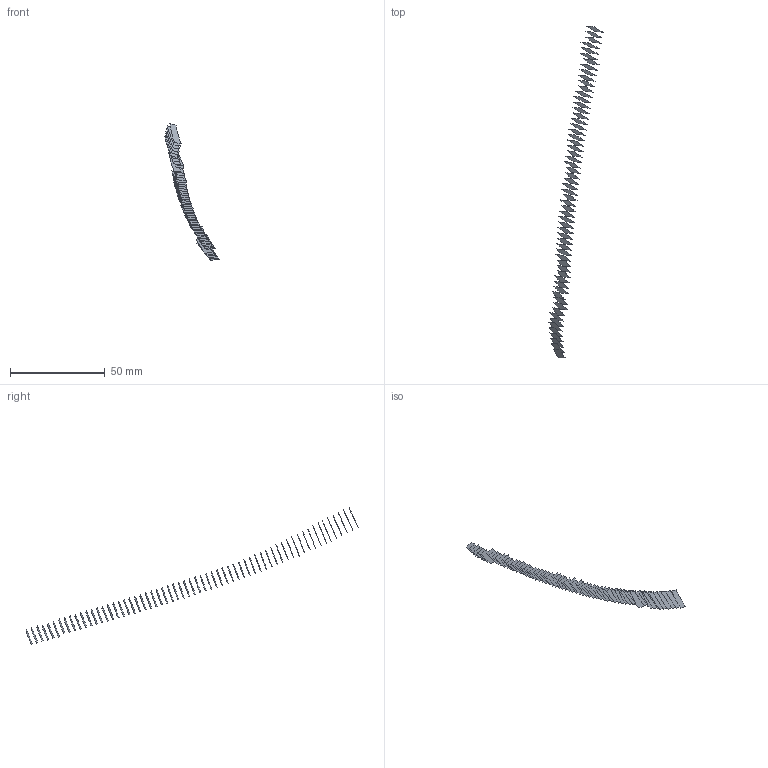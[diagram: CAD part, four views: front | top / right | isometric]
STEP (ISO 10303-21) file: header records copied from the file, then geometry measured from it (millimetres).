
FILE_DESCRIPTION(('FreeCAD Model'),'2;1');
FILE_NAME('Open CASCADE Shape Model','2022-05-22T07:50:30',('FreeCAD'),( 'FreeCAD'),'Open CASCADE STEP processor 7.5','FreeCAD','Unknown');
FILE_SCHEMA(('AUTOMOTIVE_DESIGN { 1 0 10303 214 1 1 1 1 }'));
Length unit declared in the file: millimetre
Products named in the file (62): Open CASCADE STEP translator 7.5 1; Open CASCADE STEP translator 7.5 1.1; Open CASCADE STEP translator 7.5 1.2; Open CASCADE STEP translator 7.5 1.3; Open CASCADE STEP translator 7.5 1.4; Open CASCADE STEP translator 7.5 1.5; Open CASCADE STEP translator 7.5 1.6; Open CASCADE STEP translator 7.5 1.7; Open CASCADE STEP translator 7.5 1.8; Open CASCADE STEP translator 7.5 1.9; Open CASCADE STEP translator 7.5 1.10; Open CASCADE STEP translator 7.5 1.11; Open CASCADE STEP translator 7.5 1.12; Open CASCADE STEP translator 7.5 1.13; Open CASCADE STEP translator 7.5 1.14; Open CASCADE STEP translator 7.5 1.15; Open CASCADE STEP translator 7.5 1.16; Open CASCADE STEP translator 7.5 1.17; Open CASCADE STEP translator 7.5 1.18; Open CASCADE STEP translator 7.5 1.19; Open CASCADE STEP translator 7.5 1.20; Open CASCADE STEP translator 7.5 1.21; Open CASCADE STEP translator 7.5 1.22; Open CASCADE STEP translator 7.5 1.23; Open CASCADE STEP translator 7.5 1.24; Open CASCADE STEP translator 7.5 1.25; Open CASCADE STEP translator 7.5 1.26; Open CASCADE STEP translator 7.5 1.27; Open CASCADE STEP translator 7.5 1.28; Open CASCADE STEP translator 7.5 1.29; Open CASCADE STEP translator 7.5 1.30; Open CASCADE STEP translator 7.5 1.31; Open CASCADE STEP translator 7.5 1.32; Open CASCADE STEP translator 7.5 1.33; Open CASCADE STEP translator 7.5 1.34; Open CASCADE STEP translator 7.5 1.35; Open CASCADE STEP translator 7.5 1.36; Open CASCADE STEP translator 7.5 1.37; Open CASCADE STEP translator 7.5 1.38; Open CASCADE STEP translator 7.5 1.39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
Assembly tree (61 placements, depth 2):
  Open CASCADE STEP translator 7.5 1
    Open CASCADE STEP translator 7.5 1.1
    Open CASCADE STEP translator 7.5 1.2
    Open CASCADE STEP translator 7.5 1.3
    Open CASCADE STEP translator 7.5 1.4
    Open CASCADE STEP translator 7.5 1.5
    Open CASCADE STEP translator 7.5 1.6
    Open CASCADE STEP translator 7.5 1.7
    Open CASCADE STEP translator 7.5 1.8
    Open CASCADE STEP translator 7.5 1.9
    Open CASCADE STEP translator 7.5 1.10
    Open CASCADE STEP translator 7.5 1.11
    Open CASCADE STEP translator 7.5 1.12
    Open CASCADE STEP translator 7.5 1.13
    Open CASCADE STEP translator 7.5 1.14
    Open CASCADE STEP translator 7.5 1.15
    Open CASCADE STEP translator 7.5 1.16
    Open CASCADE STEP translator 7.5 1.17
    Open CASCADE STEP translator 7.5 1.18
    Open CASCADE STEP translator 7.5 1.19
    Open CASCADE STEP translator 7.5 1.20
    Open CASCADE STEP translator 7.5 1.21
    Open CASCADE STEP translator 7.5 1.22
    Open CASCADE STEP translator 7.5 1.23
    Open CASCADE STEP translator 7.5 1.24
    Open CASCADE STEP translator 7.5 1.25
    Open CASCADE STEP translator 7.5 1.26
    Open CASCADE STEP translator 7.5 1.27
    Open CASCADE STEP translator 7.5 1.28
    Open CASCADE STEP translator 7.5 1.29
    Open CASCADE STEP translator 7.5 1.30
    Open CASCADE STEP translator 7.5 1.31
    Open CASCADE STEP translator 7.5 1.32
    Open CASCADE STEP translator 7.5 1.33
    Open CASCADE STEP translator 7.5 1.34
    Open CASCADE STEP translator 7.5 1.35
    Open CASCADE STEP translator 7.5 1.36
    Open CASCADE STEP translator 7.5 1.37
    Open CASCADE STEP translator 7.5 1.38
    Open CASCADE STEP translator 7.5 1.39
    Open CASCADE STEP translator 7.5 1.40
    Open CASCADE STEP translator 7.5 1.41
    Open CASCADE STEP translator 7.5 1.42
    Open CASCADE STEP translator 7.5 1.43
    Open CASCADE STEP translator 7.5 1.44
    Open CASCADE STEP translator 7.5 1.45
    Open CASCADE STEP translator 7.5 1.46
    Open CASCADE STEP translator 7.5 1.47
    Open CASCADE STEP translator 7.5 1.48
    Open CASCADE STEP translator 7.5 1.49
    Open CASCADE STEP translator 7.5 1.50
    Open CASCADE STEP translator 7.5 1.51
    Open CASCADE STEP translator 7.5 1.52
    Open CASCADE STEP translator 7.5 1.53
    Open CASCADE STEP translator 7.5 1.54
    Open CASCADE STEP translator 7.5 1.55
    Open CASCADE STEP translator 7.5 1.56
    Open CASCADE STEP translator 7.5 1.57
    Open CASCADE STEP translator 7.5 1.58
    Open CASCADE STEP translator 7.5 1.59
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Bounding box: 28.86 x 174.84 x 71.98 mm (x, y, z)
Surface area: 2124.9 mm2 (no closed solid volume)
Topology: 0 solids, 61 shells, 61 faces, 901 edges, 901 vertices
Faces by surface type: bspline 61
Entity records: 13437 total; most frequent: CARTESIAN_POINT 4811, B_SPLINE_CURVE_WITH_KNOTS 1802, ORIENTED_EDGE 901, EDGE_CURVE 901, VERTEX_POINT 901, SURFACE_CURVE 901, PCURVE 901, DEFINITIONAL_REPRESENTATION 901
